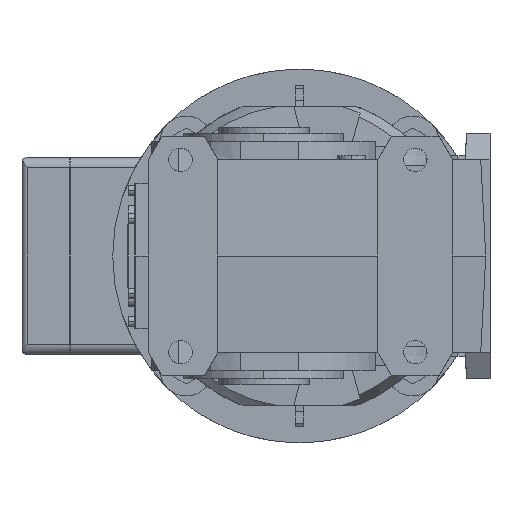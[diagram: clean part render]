
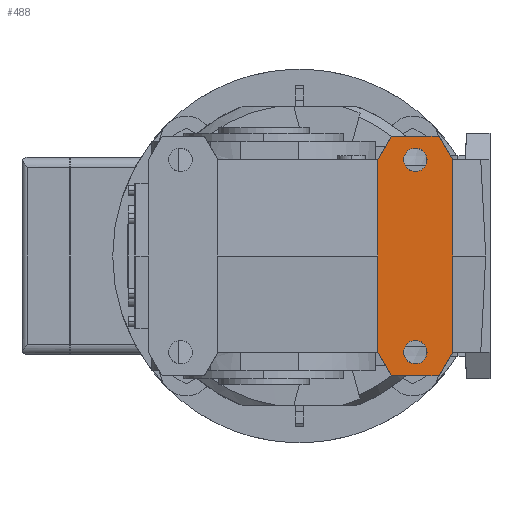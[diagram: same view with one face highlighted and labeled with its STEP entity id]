
A CAD part, left-side view. The second image highlights one B-rep face of the part: STEP entity #488.
In plain terms, the highlighted planar face has unit normal (-1, 0, 0).
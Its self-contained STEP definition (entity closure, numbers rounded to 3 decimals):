
#488 = ADVANCED_FACE( '', ( #1549, #1550, #1551 ), #1552, .T. );
#1549 = FACE_OUTER_BOUND( '', #3533, .T. );
#1550 = FACE_BOUND( '', #3534, .T. );
#1551 = FACE_BOUND( '', #3535, .T. );
#1552 = PLANE( '', #3536 );
#3533 = EDGE_LOOP( '', ( #6194, #6195, #6196, #6197, #6198, #6199, #6200, #6201 ) );
#3534 = EDGE_LOOP( '', ( #6202, #6203 ) );
#3535 = EDGE_LOOP( '', ( #6204, #6205 ) );
#3536 = AXIS2_PLACEMENT_3D( '', #6206, #6207, #6208 );
#6194 = ORIENTED_EDGE( '', *, *, #13294, .T. );
#6195 = ORIENTED_EDGE( '', *, *, #13297, .T. );
#6196 = ORIENTED_EDGE( '', *, *, #13298, .T. );
#6197 = ORIENTED_EDGE( '', *, *, #13299, .T. );
#6198 = ORIENTED_EDGE( '', *, *, #13300, .T. );
#6199 = ORIENTED_EDGE( '', *, *, #13301, .T. );
#6200 = ORIENTED_EDGE( '', *, *, #13302, .F. );
#6201 = ORIENTED_EDGE( '', *, *, #13303, .T. );
#6202 = ORIENTED_EDGE( '', *, *, #12993, .T. );
#6203 = ORIENTED_EDGE( '', *, *, #13304, .T. );
#6204 = ORIENTED_EDGE( '', *, *, #13005, .T. );
#6205 = ORIENTED_EDGE( '', *, *, #13305, .T. );
#6206 = CARTESIAN_POINT( '', ( -132., -212., 112. ) );
#6207 = DIRECTION( '', ( -1., 0., 0. ) );
#6208 = DIRECTION( '', ( 0., 0., 1. ) );
#12993 = EDGE_CURVE( '', #15545, #15542, #15546, .T. );
#13005 = EDGE_CURVE( '', #15569, #15566, #15570, .T. );
#13294 = EDGE_CURVE( '', #16073, #16079, #16081, .T. );
#13297 = EDGE_CURVE( '', #16079, #16084, #16085, .T. );
#13298 = EDGE_CURVE( '', #16084, #16086, #16087, .T. );
#13299 = EDGE_CURVE( '', #16086, #16088, #16089, .T. );
#13300 = EDGE_CURVE( '', #16088, #16090, #16091, .T. );
#13301 = EDGE_CURVE( '', #16090, #16092, #16093, .T. );
#13302 = EDGE_CURVE( '', #16094, #16092, #16095, .T. );
#13303 = EDGE_CURVE( '', #16094, #16073, #16096, .T. );
#13304 = EDGE_CURVE( '', #15542, #15545, #16097, .T. );
#13305 = EDGE_CURVE( '', #15566, #15569, #16098, .T. );
#15542 = VERTEX_POINT( '', #19692 );
#15545 = VERTEX_POINT( '', #19696 );
#15546 = CIRCLE( '', #19697, 11. );
#15566 = VERTEX_POINT( '', #19722 );
#15569 = VERTEX_POINT( '', #19726 );
#15570 = CIRCLE( '', #19727, 11. );
#16073 = VERTEX_POINT( '', #20428 );
#16079 = VERTEX_POINT( '', #20437 );
#16081 = LINE( '', #20440, #20441 );
#16084 = VERTEX_POINT( '', #20446 );
#16085 = LINE( '', #20447, #20448 );
#16086 = VERTEX_POINT( '', #20449 );
#16087 = LINE( '', #20450, #20451 );
#16088 = VERTEX_POINT( '', #20452 );
#16089 = LINE( '', #20453, #20454 );
#16090 = VERTEX_POINT( '', #20455 );
#16091 = LINE( '', #20456, #20457 );
#16092 = VERTEX_POINT( '', #20458 );
#16093 = LINE( '', #20459, #20460 );
#16094 = VERTEX_POINT( '', #20461 );
#16095 = LINE( '', #20462, #20463 );
#16096 = LINE( '', #20464, #20465 );
#16097 = CIRCLE( '', #20466, 11. );
#16098 = CIRCLE( '', #20467, 11. );
#19692 = CARTESIAN_POINT( '', ( -132., -142., -79. ) );
#19696 = CARTESIAN_POINT( '', ( -132., -142., -101. ) );
#19697 = AXIS2_PLACEMENT_3D( '', #26095, #26096, #26097 );
#19722 = CARTESIAN_POINT( '', ( -132., -142., 101. ) );
#19726 = CARTESIAN_POINT( '', ( -132., -142., 79. ) );
#19727 = AXIS2_PLACEMENT_3D( '', #26119, #26120, #26121 );
#20428 = CARTESIAN_POINT( '', ( -132., -177., -90. ) );
#20437 = CARTESIAN_POINT( '', ( -132., -177., 90. ) );
#20440 = CARTESIAN_POINT( '', ( -132., -177., 56. ) );
#20441 = VECTOR( '', #26582, 1. );
#20446 = CARTESIAN_POINT( '', ( -132., -164.298, 112. ) );
#20447 = CARTESIAN_POINT( '', ( -132., -170.261, 101.672 ) );
#20448 = VECTOR( '', #26585, 1. );
#20449 = CARTESIAN_POINT( '', ( -132., -119.702, 112. ) );
#20450 = CARTESIAN_POINT( '', ( -132., -212., 112. ) );
#20451 = VECTOR( '', #26586, 1. );
#20452 = CARTESIAN_POINT( '', ( -132., -107., 90. ) );
#20453 = CARTESIAN_POINT( '', ( -132., -124.888, 120.983 ) );
#20454 = VECTOR( '', #26587, 1. );
#20455 = CARTESIAN_POINT( '', ( -132., -107., -90. ) );
#20456 = CARTESIAN_POINT( '', ( -132., -107., 56. ) );
#20457 = VECTOR( '', #26588, 1. );
#20458 = CARTESIAN_POINT( '', ( -132., -119.702, -112. ) );
#20459 = CARTESIAN_POINT( '', ( -132., -82.742, -47.983 ) );
#20460 = VECTOR( '', #26589, 1. );
#20461 = CARTESIAN_POINT( '', ( -132., -164.298, -112. ) );
#20462 = CARTESIAN_POINT( '', ( -132., -212., -112. ) );
#20463 = VECTOR( '', #26590, 1. );
#20464 = CARTESIAN_POINT( '', ( -132., -225.109, -6.672 ) );
#20465 = VECTOR( '', #26591, 1. );
#20466 = AXIS2_PLACEMENT_3D( '', #26592, #26593, #26594 );
#20467 = AXIS2_PLACEMENT_3D( '', #26595, #26596, #26597 );
#26095 = CARTESIAN_POINT( '', ( -132., -142., -90. ) );
#26096 = DIRECTION( '', ( 1., 0., 0. ) );
#26097 = DIRECTION( '', ( 0., 0., 1. ) );
#26119 = CARTESIAN_POINT( '', ( -132., -142., 90. ) );
#26120 = DIRECTION( '', ( 1., 0., 0. ) );
#26121 = DIRECTION( '', ( 0., 0., 1. ) );
#26582 = DIRECTION( '', ( 0., 0., 1. ) );
#26585 = DIRECTION( '', ( 0., 0.5, 0.866 ) );
#26586 = DIRECTION( '', ( 0., 1., 0. ) );
#26587 = DIRECTION( '', ( 0., 0.5, -0.866 ) );
#26588 = DIRECTION( '', ( 0., 0., -1. ) );
#26589 = DIRECTION( '', ( 0., -0.5, -0.866 ) );
#26590 = DIRECTION( '', ( 0., 1., 0. ) );
#26591 = DIRECTION( '', ( 0., -0.5, 0.866 ) );
#26592 = CARTESIAN_POINT( '', ( -132., -142., -90. ) );
#26593 = DIRECTION( '', ( 1., 0., 0. ) );
#26594 = DIRECTION( '', ( 0., 0., 1. ) );
#26595 = CARTESIAN_POINT( '', ( -132., -142., 90. ) );
#26596 = DIRECTION( '', ( 1., 0., 0. ) );
#26597 = DIRECTION( '', ( 0., 0., 1. ) );
